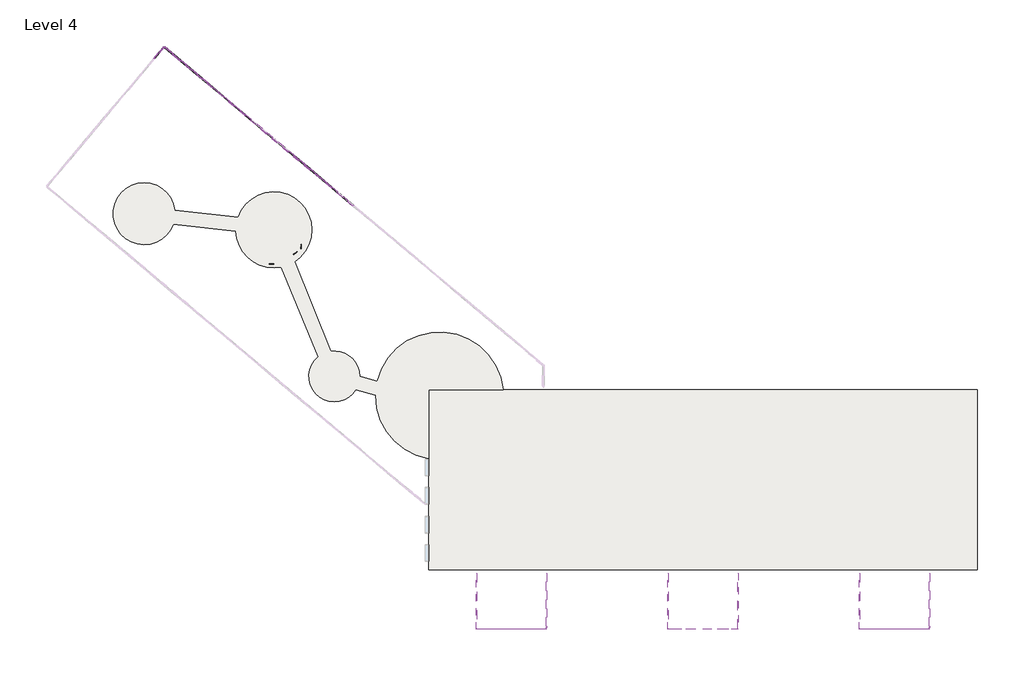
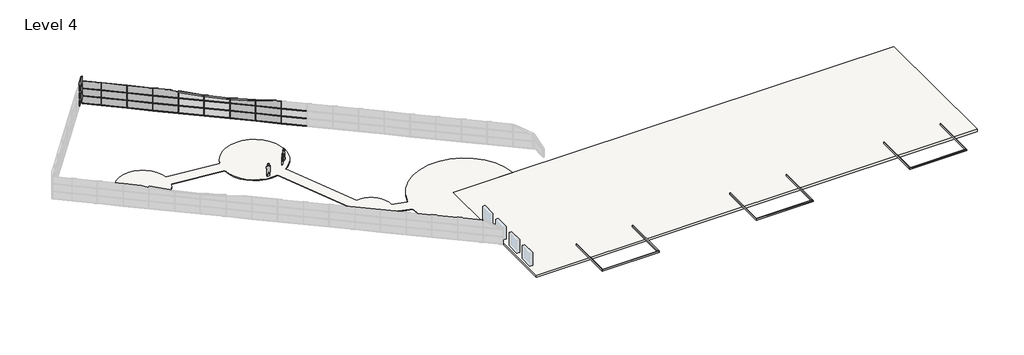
# One storey, part 4 of 4: 63 members, 21 plates, 12 proxies, 2 slabs.
"""IFC4 building model written with IfcOpenShell, lengths in millimetres."""

from ifc_helpers import new_model, si_unit, point, frame, frame_2d, origin, place, context, project, spatial, polyline, circle_curve, trimmed, segment, composite_curve, outline, extrude, faceted_brep, transform, mapped, element, save
from components import rpc_female_56938bd4, rpc_male_426f1bce, member_e6b937b8, member_4c6e9f0c, member_6fa90325, member_e501af4c, member_b87fc6c6, member_eaba9652, member_117cba67, member_8e78e238, member_387caf8a, member_71d430ac, member_3b3d754f, member_842ebd8a, system_panel_glazed_a2c5a472, system_panel_glazed_ccf48815, system_panel_glazed_c349e88e, system_panel_glazed_ea386904, system_panel_glazed_47c8b272, system_panel_glazed_6d8562a1

model = new_model("IFC4")

# Units and contexts
model_context = context("Model", 3, world=origin())
ifc_project = project(units=[si_unit("LENGTHUNIT", "METRE", prefix="MILLI")], contexts=[model_context])

# Site, building, storey
site = spatial("IfcSite", under=ifc_project)
building = spatial("IfcBuilding", under=site)
storey = spatial("IfcBuildingStorey", under=building, Name="Level 4", Elevation=9144.0)

# Proxies
placement = place(None, origin())
element("IfcBuildingElementProxy", 1, Name="Wall Sweeps", at=placement, inside=storey, context=model_context, shape_type="SweptSolid", body=[
    extrude(outline(polyline([(-12643.1386573, -9429.9629393), (-12551.0636573, -9429.9629393), (-12551.0636573, -15433.8879393), (-12643.1386573, -15525.9629393), (-12643.1386573, -9429.9629393)])), frame((0.0, 0.0, 11785.6), z_axis=(0.0, 0.0, 1.0), x_axis=(1.0, 0.0, 0.0)), (0.0, 0.0, 1.0), 203.2),
])
element("IfcBuildingElementProxy", 2, Name="Wall Sweeps", at=placement, inside=storey, context=model_context, shape_type="Brep", body=[
    faceted_brep([(-12643.1386573, -15525.9629393, 11988.8), (-12551.0636573, -15433.8879393, 11988.8), (-12551.0636573, -15433.8879393, 11785.6), (-12643.1386573, -15525.9629393, 11785.6), (-4975.5136573, -15525.9629393, 11988.8), (-4975.5136573, -15525.9629393, 11785.6), (-5067.5886573, -15433.8879393, 11785.6), (-5067.5886573, -15433.8879393, 11988.8), (-12290.7136573, -15525.9629393, 11988.8), (-12290.7136573, -15433.8879393, 11988.8), (-12290.7136573, -15433.8879393, 11785.6), (-12290.7136573, -15525.9629393, 11785.6)], [[[0, 1, 2, 3]], [[4, 5, 6, 7]], [[1, 0, 8, 4, 7, 9]], [[2, 1, 9, 7, 6, 10]], [[3, 2, 10, 6, 5, 11]], [[0, 3, 11, 5, 4, 8]]]),
])
element("IfcBuildingElementProxy", 3, Name="Wall Sweeps", at=placement, inside=storey, context=model_context, shape_type="Brep", body=[
    faceted_brep([(-4975.5136573, -15525.9629393, 11988.8), (-5067.5886573, -15433.8879393, 11988.8), (-5067.5886573, -15433.8879393, 11785.6), (-4975.5136573, -15525.9629393, 11785.6), (-4975.5136573, -9429.9629393, 11988.8), (-4975.5136573, -9429.9629393, 11785.6), (-5067.5886573, -9429.9629393, 11785.6), (-5067.5886573, -9429.9629393, 11988.8), (-4975.5136573, -15173.5379393, 11988.8), (-5067.5886573, -15173.5379393, 11988.8), (-5067.5886573, -15173.5379393, 11785.6), (-4975.5136573, -15173.5379393, 11785.6)], [[[0, 1, 2, 3]], [[4, 5, 6, 7]], [[1, 0, 8, 4, 7, 9]], [[2, 1, 9, 7, 6, 10]], [[3, 2, 10, 6, 5, 11]], [[0, 3, 11, 5, 4, 8]]]),
])
element("IfcBuildingElementProxy", 4, Name="Wall Sweeps", at=placement, inside=storey, context=model_context, shape_type="SweptSolid", body=[
    extrude(outline(polyline([(8083.2613427, -9429.9629393), (8175.3363427, -9429.9629393), (8175.3363427, -15433.8879393), (8083.2613427, -15525.9629393), (8083.2613427, -9429.9629393)])), frame((0.0, 0.0, 11785.6), z_axis=(0.0, 0.0, 1.0), x_axis=(1.0, 0.0, 0.0)), (0.0, 0.0, 1.0), 203.2),
])
element("IfcBuildingElementProxy", 5, Name="Wall Sweeps", at=placement, inside=storey, context=model_context, shape_type="SweptSolid", body=[
    extrude(outline(polyline([(8083.2613427, -15525.9629393), (8175.3363427, -15433.8879393), (15658.8113427, -15433.8879393), (15750.8863427, -15525.9629393), (8083.2613427, -15525.9629393)])), frame((0.0, 0.0, 11785.6), z_axis=(0.0, 0.0, 1.0), x_axis=(1.0, 0.0, 0.0)), (0.0, 0.0, 1.0), 203.2),
])
element("IfcBuildingElementProxy", 6, Name="Wall Sweeps", at=placement, inside=storey, context=model_context, shape_type="SweptSolid", body=[
    extrude(outline(polyline([(15750.8863427, -15525.9629393), (15658.8113427, -15433.8879393), (15658.8113427, -9429.9629393), (15750.8863427, -9429.9629393), (15750.8863427, -15525.9629393)])), frame((0.0, 0.0, 11785.6), z_axis=(0.0, 0.0, 1.0), x_axis=(1.0, 0.0, 0.0)), (0.0, 0.0, 1.0), 203.2),
])
element("IfcBuildingElementProxy", 7, Name="Wall Sweeps", at=placement, inside=storey, context=model_context, shape_type="SweptSolid", body=[
    extrude(outline(polyline([(28809.6613427, -9429.9629393), (28901.7363427, -9429.9629393), (28901.7363427, -15433.8879393), (28809.6613427, -15525.9629393), (28809.6613427, -9429.9629393)])), frame((0.0, 0.0, 11785.6), z_axis=(0.0, 0.0, 1.0), x_axis=(1.0, 0.0, 0.0)), (0.0, 0.0, 1.0), 203.2),
])
element("IfcBuildingElementProxy", 8, Name="Wall Sweeps", at=placement, inside=storey, context=model_context, shape_type="Brep", body=[
    faceted_brep([(28809.6613427, -15525.9629393, 11988.8), (28901.7363427, -15433.8879393, 11988.8), (28901.7363427, -15433.8879393, 11785.6), (28809.6613427, -15525.9629393, 11785.6), (36477.2863427, -15525.9629393, 11988.8), (36477.2863427, -15525.9629393, 11785.6), (36385.2113427, -15433.8879393, 11785.6), (36385.2113427, -15433.8879393, 11988.8), (29162.0863427, -15525.9629393, 11988.8), (29162.0863427, -15433.8879393, 11988.8), (29162.0863427, -15433.8879393, 11785.6), (29162.0863427, -15525.9629393, 11785.6)], [[[0, 1, 2, 3]], [[4, 5, 6, 7]], [[1, 0, 8, 4, 7, 9]], [[2, 1, 9, 7, 6, 10]], [[3, 2, 10, 6, 5, 11]], [[0, 3, 11, 5, 4, 8]]]),
])
element("IfcBuildingElementProxy", 9, Name="Wall Sweeps", at=placement, inside=storey, context=model_context, shape_type="Brep", body=[
    faceted_brep([(36477.2863427, -15525.9629393, 11988.8), (36385.2113427, -15433.8879393, 11988.8), (36385.2113427, -15433.8879393, 11785.6), (36477.2863427, -15525.9629393, 11785.6), (36477.2863427, -9429.9629393, 11988.8), (36477.2863427, -9429.9629393, 11785.6), (36385.2113427, -9429.9629393, 11785.6), (36385.2113427, -9429.9629393, 11988.8), (36477.2863427, -15173.5379393, 11988.8), (36385.2113427, -15173.5379393, 11988.8), (36385.2113427, -15173.5379393, 11785.6), (36477.2863427, -15173.5379393, 11785.6)], [[[0, 1, 2, 3]], [[4, 5, 6, 7]], [[1, 0, 8, 4, 7, 9]], [[2, 1, 9, 7, 6, 10]], [[3, 2, 10, 6, 5, 11]], [[0, 3, 11, 5, 4, 8]]]),
])
rpc_female_shape = rpc_female_56938bd4(model_context)
element("IfcBuildingElementProxy", 10, Name="RPC Female : Tina", ObjectType="RPC Female : Tina", at=placement, inside=storey, context=model_context, shape_type="MappedRepresentation", body=[
    mapped(rpc_female_shape, transform((-31588.0816242, 25938.0417071, 9144.0), x_axis=(0.10452846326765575, 0.9945218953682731, 0.0), y_axis=(-0.9945218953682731, 0.10452846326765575, 0.0), z_axis=(0.0, 0.0, 1.0))),
])
element("IfcBuildingElementProxy", 11, Name="RPC Female : YinYin", ObjectType="RPC Female : YinYin", at=placement, inside=storey, context=model_context, shape_type="MappedRepresentation", body=[
    mapped(rpc_female_shape, transform((-32217.4304496, 25197.6313242, 9144.0), x_axis=(0.7660444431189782, 0.642787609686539, 0.0), y_axis=(-0.642787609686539, 0.7660444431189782, 0.0), z_axis=(0.0, 0.0, 1.0))),
])
rpc_male_shape = rpc_male_426f1bce(model_context)
element("IfcBuildingElementProxy", 12, Name="RPC Male : LaRon", ObjectType="RPC Male : LaRon", at=placement, inside=storey, context=model_context, shape_type="MappedRepresentation", body=[
    mapped(rpc_male_shape, transform((-34788.2129573, 24037.7958644, 9144.0), x_axis=(1.0, 0.0, 0.0), y_axis=(0.0, 1.0, 0.0), z_axis=(0.0, 0.0, 1.0))),
])

# Members
member_shape = member_e6b937b8(model_context)
element("IfcMember", 13, ObjectType="Rectangular Mullion : 1.5\" x 2.5\" rectangular", at=placement, inside=storey, context=model_context, shape_type="MappedRepresentation", body=[
    mapped(member_shape, transform((-44606.1504378, 46018.2846161, 10400.7444177), x_axis=(0.76604444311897, -0.6427876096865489, 0.0), y_axis=(0.6427876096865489, 0.76604444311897, 0.0), z_axis=(0.0, 0.0, 1.0))),
])
element("IfcMember", 14, ObjectType="Rectangular Mullion : 1.5\" x 2.5\" rectangular", at=placement, inside=storey, context=model_context, shape_type="MappedRepresentation", body=[
    mapped(member_shape, transform((-42271.2469751, 44059.0679818, 10400.7444177), x_axis=(0.76604444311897, -0.6427876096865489, 0.0), y_axis=(0.6427876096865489, 0.76604444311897, 0.0), z_axis=(0.0, 0.0, 1.0))),
])
element("IfcMember", 15, ObjectType="Rectangular Mullion : 1.5\" x 2.5\" rectangular", at=placement, inside=storey, context=model_context, shape_type="MappedRepresentation", body=[
    mapped(member_shape, transform((-39936.3435125, 42099.8513475, 10400.7444177), x_axis=(0.76604444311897, -0.6427876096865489, 0.0), y_axis=(0.6427876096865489, 0.76604444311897, 0.0), z_axis=(0.0, 0.0, 1.0))),
])
element("IfcMember", 16, ObjectType="Rectangular Mullion : 1.5\" x 2.5\" rectangular", at=placement, inside=storey, context=model_context, shape_type="MappedRepresentation", body=[
    mapped(member_shape, transform((-32931.6331246, 36222.2014445, 10400.7444177), x_axis=(0.76604444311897, -0.6427876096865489, 0.0), y_axis=(0.6427876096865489, 0.76604444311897, 0.0), z_axis=(0.0, 0.0, 1.0))),
])
element("IfcMember", 17, ObjectType="Rectangular Mullion : 1.5\" x 2.5\" rectangular", at=placement, inside=storey, context=model_context, shape_type="MappedRepresentation", body=[
    mapped(member_shape, transform((-30596.729662, 34262.9848102, 10400.7444177), x_axis=(0.76604444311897, -0.6427876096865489, 0.0), y_axis=(0.6427876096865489, 0.76604444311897, 0.0), z_axis=(0.0, 0.0, 1.0))),
])
element("IfcMember", 18, ObjectType="Rectangular Mullion : 1.5\" x 2.5\" rectangular", at=placement, inside=storey, context=model_context, shape_type="MappedRepresentation", body=[
    mapped(member_shape, transform((-28261.8261994, 32303.7681758, 10400.7444177), x_axis=(0.76604444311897, -0.6427876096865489, 0.0), y_axis=(0.6427876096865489, 0.76604444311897, 0.0), z_axis=(0.0, 0.0, 1.0))),
])
element("IfcMember", 19, ObjectType="Rectangular Mullion : 1.5\" x 2.5\" rectangular", at=placement, inside=storey, context=model_context, shape_type="MappedRepresentation", body=[
    mapped(member_shape, transform((-44606.1504378, 46018.2846161, 11467.5444177), x_axis=(0.76604444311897, -0.6427876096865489, 0.0), y_axis=(0.6427876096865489, 0.76604444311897, 0.0), z_axis=(0.0, 0.0, 1.0))),
])
element("IfcMember", 20, ObjectType="Rectangular Mullion : 1.5\" x 2.5\" rectangular", at=placement, inside=storey, context=model_context, shape_type="MappedRepresentation", body=[
    mapped(member_shape, transform((-28261.8261994, 32303.7681758, 11467.5444177), x_axis=(0.76604444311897, -0.6427876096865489, 0.0), y_axis=(0.6427876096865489, 0.76604444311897, 0.0), z_axis=(0.0, 0.0, 1.0))),
])
element("IfcMember", 21, ObjectType="Rectangular Mullion : 1.5\" x 2.5\" rectangular", at=placement, inside=storey, context=model_context, shape_type="MappedRepresentation", body=[
    mapped(member_shape, transform((-37601.4400499, 40140.6347131, 10400.7444177), x_axis=(0.76604444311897, -0.6427876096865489, 0.0), y_axis=(0.6427876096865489, 0.76604444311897, 0.0), z_axis=(0.0, 0.0, 1.0))),
])
element("IfcMember", 22, ObjectType="Rectangular Mullion : 1.5\" x 2.5\" rectangular", at=placement, inside=storey, context=model_context, shape_type="MappedRepresentation", body=[
    mapped(member_shape, transform((-35266.5365873, 38181.4180788, 10400.7444177), x_axis=(0.76604444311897, -0.6427876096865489, 0.0), y_axis=(0.6427876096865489, 0.76604444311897, 0.0), z_axis=(0.0, 0.0, 1.0))),
])
element("IfcMember", 23, ObjectType="Rectangular Mullion : 1.5\" x 2.5\" rectangular", at=placement, inside=storey, context=model_context, shape_type="MappedRepresentation", body=[
    mapped(member_shape, transform((-32931.6331246, 36222.2014445, 11467.5444177), x_axis=(0.76604444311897, -0.6427876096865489, 0.0), y_axis=(0.6427876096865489, 0.76604444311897, 0.0), z_axis=(0.0, 0.0, 1.0))),
])
element("IfcMember", 24, ObjectType="Rectangular Mullion : 1.5\" x 2.5\" rectangular", at=placement, inside=storey, context=model_context, shape_type="MappedRepresentation", body=[
    mapped(member_shape, transform((-30596.729662, 34262.9848102, 11467.5444177), x_axis=(0.76604444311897, -0.6427876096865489, 0.0), y_axis=(0.6427876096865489, 0.76604444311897, 0.0), z_axis=(0.0, 0.0, 1.0))),
])
element("IfcMember", 25, ObjectType="Rectangular Mullion : 1.5\" x 2.5\" rectangular", at=placement, inside=storey, context=model_context, shape_type="MappedRepresentation", body=[
    mapped(member_shape, transform((-28261.8261994, 32303.7681758, 12534.3444177), x_axis=(0.76604444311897, -0.6427876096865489, 0.0), y_axis=(0.6427876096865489, 0.76604444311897, 0.0), z_axis=(0.0, 0.0, 1.0))),
])
element("IfcMember", 26, ObjectType="Rectangular Mullion : 1.5\" x 2.5\" rectangular", at=placement, inside=storey, context=model_context, shape_type="MappedRepresentation", body=[
    mapped(member_shape, transform((-42271.2469751, 44059.0679818, 11467.5444177), x_axis=(0.76604444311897, -0.6427876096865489, 0.0), y_axis=(0.6427876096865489, 0.76604444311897, 0.0), z_axis=(0.0, 0.0, 1.0))),
])
element("IfcMember", 27, ObjectType="Rectangular Mullion : 1.5\" x 2.5\" rectangular", at=placement, inside=storey, context=model_context, shape_type="MappedRepresentation", body=[
    mapped(member_shape, transform((-39936.3435125, 42099.8513475, 11467.5444177), x_axis=(0.76604444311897, -0.6427876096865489, 0.0), y_axis=(0.6427876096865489, 0.76604444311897, 0.0), z_axis=(0.0, 0.0, 1.0))),
])
element("IfcMember", 28, ObjectType="Rectangular Mullion : 1.5\" x 2.5\" rectangular", at=placement, inside=storey, context=model_context, shape_type="MappedRepresentation", body=[
    mapped(member_shape, transform((-37601.4400499, 40140.6347131, 11467.5444177), x_axis=(0.76604444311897, -0.6427876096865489, 0.0), y_axis=(0.6427876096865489, 0.76604444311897, 0.0), z_axis=(0.0, 0.0, 1.0))),
])
element("IfcMember", 29, ObjectType="Rectangular Mullion : 1.5\" x 2.5\" rectangular", at=placement, inside=storey, context=model_context, shape_type="MappedRepresentation", body=[
    mapped(member_shape, transform((-35266.5365873, 38181.4180788, 11467.5444177), x_axis=(0.76604444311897, -0.6427876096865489, 0.0), y_axis=(0.6427876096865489, 0.76604444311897, 0.0), z_axis=(0.0, 0.0, 1.0))),
])
element("IfcMember", 30, ObjectType="Rectangular Mullion : 1.5\" x 2.5\" rectangular", at=placement, inside=storey, context=model_context, shape_type="MappedRepresentation", body=[
    mapped(member_shape, transform((-44606.1504378, 46018.2846161, 12534.3444177), x_axis=(0.76604444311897, -0.6427876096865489, 0.0), y_axis=(0.6427876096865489, 0.76604444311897, 0.0), z_axis=(0.0, 0.0, 1.0))),
])
element("IfcMember", 31, ObjectType="Rectangular Mullion : 1.5\" x 2.5\" rectangular", at=placement, inside=storey, context=model_context, shape_type="MappedRepresentation", body=[
    mapped(member_shape, transform((-42271.2469751, 44059.0679818, 12534.3444177), x_axis=(0.76604444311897, -0.6427876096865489, 0.0), y_axis=(0.6427876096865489, 0.76604444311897, 0.0), z_axis=(0.0, 0.0, 1.0))),
])
element("IfcMember", 32, ObjectType="Rectangular Mullion : 1.5\" x 2.5\" rectangular", at=placement, inside=storey, context=model_context, shape_type="MappedRepresentation", body=[
    mapped(member_shape, transform((-39936.3435125, 42099.8513475, 12534.3444177), x_axis=(0.76604444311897, -0.6427876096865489, 0.0), y_axis=(0.6427876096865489, 0.76604444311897, 0.0), z_axis=(0.0, 0.0, 1.0))),
])
element("IfcMember", 33, ObjectType="Rectangular Mullion : 1.5\" x 2.5\" rectangular", at=placement, inside=storey, context=model_context, shape_type="MappedRepresentation", body=[
    mapped(member_shape, transform((-47467.9053784, 46277.8248681, 11021.2974171), x_axis=(0.6427876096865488, 0.7660444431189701, 0.0), y_axis=(-0.7660444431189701, 0.6427876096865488, 0.0), z_axis=(0.0, 0.0, 1.0))),
])
element("IfcMember", 34, ObjectType="Rectangular Mullion : 1.5\" x 2.5\" rectangular", at=placement, inside=storey, context=model_context, shape_type="MappedRepresentation", body=[
    mapped(member_shape, transform((-47467.9053784, 46277.8248681, 12088.0974171), x_axis=(0.6427876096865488, 0.7660444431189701, 0.0), y_axis=(-0.7660444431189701, 0.6427876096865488, 0.0), z_axis=(0.0, 0.0, 1.0))),
])
element("IfcMember", 35, ObjectType="Rectangular Mullion : 1.5\" x 2.5\" rectangular", at=placement, inside=storey, context=model_context, shape_type="MappedRepresentation", body=[
    mapped(member_shape, transform((-47467.9053784, 46277.8248681, 13154.8974171), x_axis=(0.6427876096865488, 0.7660444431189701, 0.0), y_axis=(-0.7660444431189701, 0.6427876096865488, 0.0), z_axis=(0.0, 0.0, 1.0))),
])
member_2_shape = member_4c6e9f0c(model_context)
element("IfcMember", 36, ObjectType="Rectangular Mullion : 1.5\" x 2.5\" rectangular", at=placement, inside=storey, context=model_context, shape_type="MappedRepresentation", body=[
    mapped(member_2_shape, transform((-35266.5365873, 38181.4180788, 12182.7649454), x_axis=(0.76604444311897, -0.6427876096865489, 0.0), y_axis=(0.6427876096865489, 0.76604444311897, 0.0), z_axis=(0.0, 0.0, 1.0))),
])
member_3_shape = member_6fa90325(model_context)
element("IfcMember", 37, ObjectType="Rectangular Mullion : 1.5\" x 2.5\" rectangular", at=placement, inside=storey, context=model_context, shape_type="MappedRepresentation", body=[
    mapped(member_3_shape, transform((-32931.6331246, 36222.2014445, 12145.3017356), x_axis=(0.76604444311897, -0.6427876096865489, 0.0), y_axis=(0.6427876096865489, 0.76604444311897, 0.0), z_axis=(0.0, 0.0, 1.0))),
])
member_4_shape = member_e501af4c(model_context)
element("IfcMember", 38, ObjectType="Rectangular Mullion : 1.5\" x 2.5\" rectangular", at=placement, inside=storey, context=model_context, shape_type="MappedRepresentation", body=[
    mapped(member_4_shape, transform((-30596.729662, 34262.9848102, 12327.8399655), x_axis=(0.76604444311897, -0.6427876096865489, 0.0), y_axis=(0.6427876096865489, 0.76604444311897, 0.0), z_axis=(0.0, 0.0, 1.0))),
])
member_5_shape = member_b87fc6c6(model_context)
element("IfcMember", 39, ObjectType="Rectangular Mullion : 1.5\" x 2.5\" rectangular", at=placement, inside=storey, context=model_context, shape_type="MappedRepresentation", body=[
    mapped(member_5_shape, transform((-37601.4400499, 40140.6347131, 12440.8181525), x_axis=(0.76604444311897, -0.6427876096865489, 0.0), y_axis=(0.6427876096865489, 0.76604444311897, 0.0), z_axis=(0.0, 0.0, 1.0))),
])
member_6_shape = member_eaba9652(model_context)
element("IfcMember", 40, ObjectType="Rectangular Mullion : 2.5\" x 5\" rectangular", at=placement, inside=storey, context=model_context, shape_type="MappedRepresentation", body=[
    mapped(member_6_shape, transform((-44606.1504378, 46018.2846161, 9365.6944177), x_axis=(0.0, 0.0, 1.0), y_axis=(0.6427876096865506, 0.7660444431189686, 0.0), z_axis=(-0.7660444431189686, 0.6427876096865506, 0.0))),
])
element("IfcMember", 41, ObjectType="Rectangular Mullion : 2.5\" x 5\" rectangular", at=placement, inside=storey, context=model_context, shape_type="MappedRepresentation", body=[
    mapped(member_6_shape, transform((-42271.2469751, 44059.0679818, 9365.6944177), x_axis=(0.0, 0.0, 1.0), y_axis=(0.6427876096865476, 0.7660444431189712, 0.0), z_axis=(-0.7660444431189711, 0.6427876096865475, 0.0))),
])
element("IfcMember", 42, ObjectType="Rectangular Mullion : 2.5\" x 5\" rectangular", at=placement, inside=storey, context=model_context, shape_type="MappedRepresentation", body=[
    mapped(member_6_shape, transform((-39936.3435125, 42099.8513475, 9365.6944177), x_axis=(0.0, 0.0, 1.0), y_axis=(0.6427876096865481, 0.7660444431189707, 0.0), z_axis=(-0.7660444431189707, 0.6427876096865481, 0.0))),
])
element("IfcMember", 43, ObjectType="Rectangular Mullion : 2.5\" x 5\" rectangular", at=placement, inside=storey, context=model_context, shape_type="MappedRepresentation", body=[
    mapped(member_6_shape, transform((-37601.4400499, 40140.6347131, 9365.6944177), x_axis=(0.0, 0.0, 1.0), y_axis=(0.6427876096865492, 0.7660444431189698, 0.0), z_axis=(-0.7660444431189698, 0.6427876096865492, 0.0))),
])
element("IfcMember", 44, ObjectType="Rectangular Mullion : 2.5\" x 5\" rectangular", at=placement, inside=storey, context=model_context, shape_type="MappedRepresentation", body=[
    mapped(member_6_shape, transform((-35266.5365873, 38181.4180788, 9365.6944177), x_axis=(0.0, 0.0, 1.0), y_axis=(0.6427876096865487, 0.7660444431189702, 0.0), z_axis=(-0.7660444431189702, 0.6427876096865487, 0.0))),
])
element("IfcMember", 45, ObjectType="Rectangular Mullion : 2.5\" x 5\" rectangular", at=placement, inside=storey, context=model_context, shape_type="MappedRepresentation", body=[
    mapped(member_6_shape, transform((-32931.6331246, 36222.2014445, 9365.6944177), x_axis=(0.0, 0.0, 1.0), y_axis=(0.6427876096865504, 0.7660444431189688, 0.0), z_axis=(-0.7660444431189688, 0.6427876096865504, 0.0))),
])
element("IfcMember", 46, ObjectType="Rectangular Mullion : 2.5\" x 5\" rectangular", at=placement, inside=storey, context=model_context, shape_type="MappedRepresentation", body=[
    mapped(member_6_shape, transform((-30596.729662, 34262.9848102, 9365.6944177), x_axis=(0.0, 0.0, 1.0), y_axis=(0.6427876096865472, 0.7660444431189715, 0.0), z_axis=(-0.7660444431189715, 0.6427876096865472, 0.0))),
])
element("IfcMember", 47, ObjectType="Rectangular Mullion : 2.5\" x 5\" rectangular", at=placement, inside=storey, context=model_context, shape_type="MappedRepresentation", body=[
    mapped(member_6_shape, transform((-28261.8261994, 32303.7681758, 9365.6944177), x_axis=(0.0, 0.0, 1.0), y_axis=(0.64278760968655, 0.766044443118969, 0.0), z_axis=(-0.766044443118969, 0.64278760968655, 0.0))),
])
element("IfcMember", 48, ObjectType="Rectangular Mullion : 2.5\" x 5\" rectangular", at=placement, inside=storey, context=model_context, shape_type="MappedRepresentation", body=[
    mapped(member_6_shape, transform((-44606.1504378, 46018.2846161, 10432.4944177), x_axis=(0.0, 0.0, 1.0), y_axis=(0.6427876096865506, 0.7660444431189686, 0.0), z_axis=(-0.7660444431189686, 0.6427876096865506, 0.0))),
])
element("IfcMember", 49, ObjectType="Rectangular Mullion : 2.5\" x 5\" rectangular", at=placement, inside=storey, context=model_context, shape_type="MappedRepresentation", body=[
    mapped(member_6_shape, transform((-42271.2469751, 44059.0679818, 10432.4944177), x_axis=(0.0, 0.0, 1.0), y_axis=(0.6427876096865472, 0.7660444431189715, 0.0), z_axis=(-0.7660444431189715, 0.6427876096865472, 0.0))),
])
element("IfcMember", 50, ObjectType="Rectangular Mullion : 2.5\" x 5\" rectangular", at=placement, inside=storey, context=model_context, shape_type="MappedRepresentation", body=[
    mapped(member_6_shape, transform((-39936.3435125, 42099.8513475, 10432.4944177), x_axis=(0.0, 0.0, 1.0), y_axis=(0.6427876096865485, 0.7660444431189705, 0.0), z_axis=(-0.7660444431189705, 0.6427876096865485, 0.0))),
])
element("IfcMember", 51, ObjectType="Rectangular Mullion : 2.5\" x 5\" rectangular", at=placement, inside=storey, context=model_context, shape_type="MappedRepresentation", body=[
    mapped(member_6_shape, transform((-35266.5365873, 38181.4180788, 10432.4944177), x_axis=(0.0, 0.0, 1.0), y_axis=(0.6427876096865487, 0.7660444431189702, 0.0), z_axis=(-0.7660444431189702, 0.6427876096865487, 0.0))),
])
element("IfcMember", 52, ObjectType="Rectangular Mullion : 2.5\" x 5\" rectangular", at=placement, inside=storey, context=model_context, shape_type="MappedRepresentation", body=[
    mapped(member_6_shape, transform((-32931.6331246, 36222.2014445, 10432.4944177), x_axis=(0.0, 0.0, 1.0), y_axis=(0.6427876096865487, 0.7660444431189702, 0.0), z_axis=(-0.7660444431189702, 0.6427876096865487, 0.0))),
])
element("IfcMember", 53, ObjectType="Rectangular Mullion : 2.5\" x 5\" rectangular", at=placement, inside=storey, context=model_context, shape_type="MappedRepresentation", body=[
    mapped(member_6_shape, transform((-30596.729662, 34262.9848102, 10432.4944177), x_axis=(0.0, 0.0, 1.0), y_axis=(0.642787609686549, 0.76604444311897, 0.0), z_axis=(-0.7660444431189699, 0.6427876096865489, 0.0))),
])
element("IfcMember", 54, ObjectType="Rectangular Mullion : 2.5\" x 5\" rectangular", at=placement, inside=storey, context=model_context, shape_type="MappedRepresentation", body=[
    mapped(member_6_shape, transform((-28261.8261994, 32303.7681758, 10432.4944177), x_axis=(0.0, 0.0, 1.0), y_axis=(0.6427876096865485, 0.7660444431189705, 0.0), z_axis=(-0.7660444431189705, 0.6427876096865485, 0.0))),
])
element("IfcMember", 55, ObjectType="Rectangular Mullion : 2.5\" x 5\" rectangular", at=placement, inside=storey, context=model_context, shape_type="MappedRepresentation", body=[
    mapped(member_6_shape, transform((-44606.1504378, 46018.2846161, 11499.2944177), x_axis=(0.0, 0.0, 1.0), y_axis=(0.6427876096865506, 0.7660444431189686, 0.0), z_axis=(-0.7660444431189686, 0.6427876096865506, 0.0))),
])
element("IfcMember", 56, ObjectType="Rectangular Mullion : 2.5\" x 5\" rectangular", at=placement, inside=storey, context=model_context, shape_type="MappedRepresentation", body=[
    mapped(member_6_shape, transform((-30596.729662, 34262.9848102, 11499.2944177), x_axis=(0.0, 0.0, 1.0), y_axis=(0.6427876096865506, 0.7660444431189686, 0.0), z_axis=(-0.7660444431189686, 0.6427876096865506, 0.0))),
])
element("IfcMember", 57, ObjectType="Rectangular Mullion : 2.5\" x 5\" rectangular", at=placement, inside=storey, context=model_context, shape_type="MappedRepresentation", body=[
    mapped(member_6_shape, transform((-28261.8261994, 32303.7681758, 11499.2944177), x_axis=(0.0, 0.0, 1.0), y_axis=(0.6427876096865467, 0.7660444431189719, 0.0), z_axis=(-0.7660444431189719, 0.6427876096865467, 0.0))),
])
element("IfcMember", 58, ObjectType="Rectangular Mullion : 2.5\" x 5\" rectangular", at=placement, inside=storey, context=model_context, shape_type="MappedRepresentation", body=[
    mapped(member_6_shape, transform((-37601.4400499, 40140.6347131, 10432.4944177), x_axis=(0.0, 0.0, 1.0), y_axis=(0.6427876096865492, 0.7660444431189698, 0.0), z_axis=(-0.7660444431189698, 0.6427876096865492, 0.0))),
])
element("IfcMember", 59, ObjectType="Rectangular Mullion : 2.5\" x 5\" rectangular", at=placement, inside=storey, context=model_context, shape_type="MappedRepresentation", body=[
    mapped(member_6_shape, transform((-35266.5365873, 38181.4180788, 11499.2944177), x_axis=(0.0, 0.0, 1.0), y_axis=(0.6427876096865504, 0.7660444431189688, 0.0), z_axis=(-0.7660444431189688, 0.6427876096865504, 0.0))),
])
element("IfcMember", 60, ObjectType="Rectangular Mullion : 2.5\" x 5\" rectangular", at=placement, inside=storey, context=model_context, shape_type="MappedRepresentation", body=[
    mapped(member_6_shape, transform((-32931.6331246, 36222.2014445, 11499.2944177), x_axis=(0.0, 0.0, 1.0), y_axis=(0.6427876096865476, 0.7660444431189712, 0.0), z_axis=(-0.7660444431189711, 0.6427876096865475, 0.0))),
])
element("IfcMember", 61, ObjectType="Rectangular Mullion : 2.5\" x 5\" rectangular", at=placement, inside=storey, context=model_context, shape_type="MappedRepresentation", body=[
    mapped(member_6_shape, transform((-42271.2469751, 44059.0679818, 11499.2944177), x_axis=(0.0, 0.0, 1.0), y_axis=(0.6427876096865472, 0.7660444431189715, 0.0), z_axis=(-0.7660444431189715, 0.6427876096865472, 0.0))),
])
element("IfcMember", 62, ObjectType="Rectangular Mullion : 2.5\" x 5\" rectangular", at=placement, inside=storey, context=model_context, shape_type="MappedRepresentation", body=[
    mapped(member_6_shape, transform((-39936.3435125, 42099.8513475, 11499.2944177), x_axis=(0.0, 0.0, 1.0), y_axis=(0.6427876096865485, 0.7660444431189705, 0.0), z_axis=(-0.7660444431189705, 0.6427876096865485, 0.0))),
])
element("IfcMember", 63, ObjectType="Rectangular Mullion : 2.5\" x 5\" rectangular", at=placement, inside=storey, context=model_context, shape_type="MappedRepresentation", body=[
    mapped(member_6_shape, transform((-37601.4400499, 40140.6347131, 11499.2944177), x_axis=(0.0, 0.0, 1.0), y_axis=(0.642787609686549, 0.76604444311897, 0.0), z_axis=(-0.7660444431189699, 0.6427876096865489, 0.0))),
])
member_7_shape = member_117cba67(model_context)
element("IfcMember", 64, ObjectType="Rectangular Mullion : 2.5\" x 5\" rectangular", at=placement, inside=storey, context=model_context, shape_type="MappedRepresentation", body=[
    mapped(member_7_shape, transform((-47467.9053784, 46277.8248681, 9986.2474171), x_axis=(0.0, 0.0, 1.0), y_axis=(-0.7660444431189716, 0.6427876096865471, 0.0), z_axis=(-0.6427876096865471, -0.7660444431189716, 0.0))),
])
element("IfcMember", 65, ObjectType="Rectangular Mullion : 2.5\" x 5\" rectangular", at=placement, inside=storey, context=model_context, shape_type="MappedRepresentation", body=[
    mapped(member_7_shape, transform((-47467.9053784, 46277.8248681, 11053.0474171), x_axis=(0.0, 0.0, 1.0), y_axis=(-0.7660444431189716, 0.6427876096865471, 0.0), z_axis=(-0.6427876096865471, -0.7660444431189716, 0.0))),
])
element("IfcMember", 66, ObjectType="Rectangular Mullion : 2.5\" x 5\" rectangular", at=placement, inside=storey, context=model_context, shape_type="MappedRepresentation", body=[
    mapped(member_7_shape, transform((-47467.9053784, 46277.8248681, 12119.8474171), x_axis=(0.0, 0.0, 1.0), y_axis=(-0.7660444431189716, 0.6427876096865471, 0.0), z_axis=(-0.6427876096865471, -0.7660444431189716, 0.0))),
])
member_8_shape = member_8e78e238(model_context)
element("IfcMember", 67, ObjectType="Rectangular Mullion : 2.5\" x 5\" rectangular", at=placement, inside=storey, context=model_context, shape_type="MappedRepresentation", body=[
    mapped(member_8_shape, transform((-46340.3300662, 47473.4341027, 9365.6944177), x_axis=(0.0, 0.0, 1.0), y_axis=(0.6427876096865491, 0.7660444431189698, 0.0), z_axis=(-0.7660444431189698, 0.6427876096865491, 0.0))),
])
element("IfcMember", 68, ObjectType="Rectangular Mullion : 2.5\" x 5\" rectangular", at=placement, inside=storey, context=model_context, shape_type="MappedRepresentation", body=[
    mapped(member_8_shape, transform((-46340.3300662, 47473.4341027, 10432.4944177), x_axis=(0.0, 0.0, 1.0), y_axis=(0.6427876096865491, 0.7660444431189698, 0.0), z_axis=(-0.7660444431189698, 0.6427876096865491, 0.0))),
])
element("IfcMember", 69, ObjectType="Rectangular Mullion : 2.5\" x 5\" rectangular", at=placement, inside=storey, context=model_context, shape_type="MappedRepresentation", body=[
    mapped(member_8_shape, transform((-46340.3300662, 47473.4341027, 11499.2944177), x_axis=(0.0, 0.0, 1.0), y_axis=(0.6427876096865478, 0.766044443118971, 0.0), z_axis=(-0.766044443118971, 0.6427876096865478, 0.0))),
])
member_9_shape = member_387caf8a(model_context)
element("IfcMember", 70, ObjectType="V Corner Mullion : 5\" V Corner", at=placement, inside=storey, context=model_context, shape_type="MappedRepresentation", body=[
    mapped(member_9_shape, transform((-46413.2957994, 47534.6596226, 11053.0474171), x_axis=(0.6427876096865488, 0.7660444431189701, 0.0), y_axis=(-0.7660444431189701, 0.6427876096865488, 0.0), z_axis=(0.0, 0.0, 1.0))),
])
element("IfcMember", 71, ObjectType="V Corner Mullion : 5\" V Corner", at=placement, inside=storey, context=model_context, shape_type="MappedRepresentation", body=[
    mapped(member_9_shape, transform((-46413.2957994, 47534.6596226, 12119.8474171), x_axis=(0.6427876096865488, 0.7660444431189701, 0.0), y_axis=(-0.7660444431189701, 0.6427876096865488, 0.0), z_axis=(0.0, 0.0, 1.0))),
])
element("IfcMember", 72, ObjectType="V Corner Mullion : 5\" V Corner", at=placement, inside=storey, context=model_context, shape_type="MappedRepresentation", body=[
    mapped(member_9_shape, transform((-46413.2957994, 47534.6596226, 13186.6474171), x_axis=(0.6427876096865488, 0.7660444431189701, 0.0), y_axis=(-0.7660444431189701, 0.6427876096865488, 0.0), z_axis=(0.0, 0.0, 1.0))),
])
member_10_shape = member_71d430ac(model_context)
element("IfcMember", 73, ObjectType="V Corner Mullion : 5\" V Corner", at=placement, inside=storey, context=model_context, shape_type="MappedRepresentation", body=[
    mapped(member_10_shape, transform((-35266.5365873, 38181.4180788, 12182.7649454), x_axis=(0.009414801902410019, -0.007899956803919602, 0.9999244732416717), y_axis=(0.6427876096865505, 0.7660444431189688, 0.0), z_axis=(-0.7659865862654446, 0.6427390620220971, 0.012290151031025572))),
])
member_11_shape = member_3b3d754f(model_context)
element("IfcMember", 74, ObjectType="V Corner Mullion : 5\" V Corner", at=placement, inside=storey, context=model_context, shape_type="MappedRepresentation", body=[
    mapped(member_11_shape, transform((-32931.6331246, 36222.2014445, 12145.3017356), x_axis=(-0.045794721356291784, 0.038426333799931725, 0.9982115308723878), y_axis=(0.6427876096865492, 0.7660444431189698, 0.0), z_axis=(-0.7646743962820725, 0.6416380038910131, -0.0597807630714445))),
])
member_12_shape = member_842ebd8a(model_context)
element("IfcMember", 75, ObjectType="V Corner Mullion : 5\" V Corner", at=placement, inside=storey, context=model_context, shape_type="MappedRepresentation", body=[
    mapped(member_12_shape, transform((-37601.4400499, 40140.6347131, 12440.8181525), x_axis=(0.06462452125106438, -0.0542264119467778, 0.9964352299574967), y_axis=(0.6427876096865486, 0.7660444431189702, 0.0), z_axis=(-0.7633136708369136, 0.6404962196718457, 0.08436132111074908))),
])

# Plates
system_panel_glazed_shape = system_panel_glazed_a2c5a472(model_context)
element("IfcPlate", 76, ObjectType="System Panel : Glazed", at=placement, inside=storey, context=model_context, shape_type="MappedRepresentation", body=[
    mapped(system_panel_glazed_shape, transform((-43438.6987064, 45038.6762989, 9397.4444177), x_axis=(0.76604444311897, -0.6427876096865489, 0.0), y_axis=(0.6427876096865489, 0.76604444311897, 0.0), z_axis=(0.0, 0.0, 1.0))),
])
element("IfcPlate", 77, ObjectType="System Panel : Glazed", at=placement, inside=storey, context=model_context, shape_type="MappedRepresentation", body=[
    mapped(system_panel_glazed_shape, transform((-41103.7952438, 43079.4596646, 9397.4444177), x_axis=(0.76604444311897, -0.6427876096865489, 0.0), y_axis=(0.6427876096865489, 0.76604444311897, 0.0), z_axis=(0.0, 0.0, 1.0))),
])
element("IfcPlate", 78, ObjectType="System Panel : Glazed", at=placement, inside=storey, context=model_context, shape_type="MappedRepresentation", body=[
    mapped(system_panel_glazed_shape, transform((-38768.8917812, 41120.2430303, 9397.4444177), x_axis=(0.76604444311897, -0.6427876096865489, 0.0), y_axis=(0.6427876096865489, 0.76604444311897, 0.0), z_axis=(0.0, 0.0, 1.0))),
])
element("IfcPlate", 79, ObjectType="System Panel : Glazed", at=placement, inside=storey, context=model_context, shape_type="MappedRepresentation", body=[
    mapped(system_panel_glazed_shape, transform((-31764.1813933, 35242.5931273, 9397.4444177), x_axis=(0.76604444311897, -0.6427876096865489, 0.0), y_axis=(0.6427876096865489, 0.76604444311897, 0.0), z_axis=(0.0, 0.0, 1.0))),
])
element("IfcPlate", 80, ObjectType="System Panel : Glazed", at=placement, inside=storey, context=model_context, shape_type="MappedRepresentation", body=[
    mapped(system_panel_glazed_shape, transform((-29429.2779307, 33283.376493, 9397.4444177), x_axis=(0.76604444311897, -0.6427876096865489, 0.0), y_axis=(0.6427876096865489, 0.76604444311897, 0.0), z_axis=(0.0, 0.0, 1.0))),
])
element("IfcPlate", 81, ObjectType="System Panel : Glazed", at=placement, inside=storey, context=model_context, shape_type="MappedRepresentation", body=[
    mapped(system_panel_glazed_shape, transform((-43438.6987064, 45038.6762989, 10464.2444177), x_axis=(0.76604444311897, -0.6427876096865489, 0.0), y_axis=(0.6427876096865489, 0.76604444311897, 0.0), z_axis=(0.0, 0.0, 1.0))),
])
element("IfcPlate", 82, ObjectType="System Panel : Glazed", at=placement, inside=storey, context=model_context, shape_type="MappedRepresentation", body=[
    mapped(system_panel_glazed_shape, transform((-41103.7952438, 43079.4596646, 10464.2444177), x_axis=(0.76604444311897, -0.6427876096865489, 0.0), y_axis=(0.6427876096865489, 0.76604444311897, 0.0), z_axis=(0.0, 0.0, 1.0))),
])
element("IfcPlate", 83, ObjectType="System Panel : Glazed", at=placement, inside=storey, context=model_context, shape_type="MappedRepresentation", body=[
    mapped(system_panel_glazed_shape, transform((-38768.8917812, 41120.2430303, 10464.2444177), x_axis=(0.76604444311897, -0.6427876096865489, 0.0), y_axis=(0.6427876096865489, 0.76604444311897, 0.0), z_axis=(0.0, 0.0, 1.0))),
])
element("IfcPlate", 84, ObjectType="System Panel : Glazed", at=placement, inside=storey, context=model_context, shape_type="MappedRepresentation", body=[
    mapped(system_panel_glazed_shape, transform((-31764.1813933, 35242.5931273, 10464.2444177), x_axis=(0.76604444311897, -0.6427876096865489, 0.0), y_axis=(0.6427876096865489, 0.76604444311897, 0.0), z_axis=(0.0, 0.0, 1.0))),
])
element("IfcPlate", 85, ObjectType="System Panel : Glazed", at=placement, inside=storey, context=model_context, shape_type="MappedRepresentation", body=[
    mapped(system_panel_glazed_shape, transform((-29429.2779307, 33283.376493, 10464.2444177), x_axis=(0.76604444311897, -0.6427876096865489, 0.0), y_axis=(0.6427876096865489, 0.76604444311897, 0.0), z_axis=(0.0, 0.0, 1.0))),
])
element("IfcPlate", 86, ObjectType="System Panel : Glazed", at=placement, inside=storey, context=model_context, shape_type="MappedRepresentation", body=[
    mapped(system_panel_glazed_shape, transform((-43438.6987064, 45038.6762989, 11531.0444177), x_axis=(0.76604444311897, -0.6427876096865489, 0.0), y_axis=(0.6427876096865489, 0.76604444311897, 0.0), z_axis=(0.0, 0.0, 1.0))),
])
element("IfcPlate", 87, ObjectType="System Panel : Glazed", at=placement, inside=storey, context=model_context, shape_type="MappedRepresentation", body=[
    mapped(system_panel_glazed_shape, transform((-41103.7952438, 43079.4596646, 11531.0444177), x_axis=(0.76604444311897, -0.6427876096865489, 0.0), y_axis=(0.6427876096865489, 0.76604444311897, 0.0), z_axis=(0.0, 0.0, 1.0))),
])
system_panel_glazed_2_shape = system_panel_glazed_ccf48815(model_context)
element("IfcPlate", 88, ObjectType="System Panel : Glazed", at=placement, inside=storey, context=model_context, shape_type="MappedRepresentation", body=[
    mapped(system_panel_glazed_2_shape, transform((-45480.5368253, 46751.9819114, 9397.4444177), x_axis=(0.76604444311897, -0.6427876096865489, 0.0), y_axis=(0.6427876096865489, 0.76604444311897, 0.0), z_axis=(0.0, 0.0, 1.0))),
])
element("IfcPlate", 89, ObjectType="System Panel : Glazed", at=placement, inside=storey, context=model_context, shape_type="MappedRepresentation", body=[
    mapped(system_panel_glazed_2_shape, transform((-45480.5368253, 46751.9819114, 10464.2444177), x_axis=(0.76604444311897, -0.6427876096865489, 0.0), y_axis=(0.6427876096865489, 0.76604444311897, 0.0), z_axis=(0.0, 0.0, 1.0))),
])
element("IfcPlate", 90, ObjectType="System Panel : Glazed", at=placement, inside=storey, context=model_context, shape_type="MappedRepresentation", body=[
    mapped(system_panel_glazed_2_shape, transform((-45480.5368253, 46751.9819114, 11531.0444177), x_axis=(0.76604444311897, -0.6427876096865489, 0.0), y_axis=(0.6427876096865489, 0.76604444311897, 0.0), z_axis=(0.0, 0.0, 1.0))),
])
system_panel_glazed_3_shape = system_panel_glazed_c349e88e(model_context)
element("IfcPlate", 91, ObjectType="System Panel : Glazed", at=placement, inside=storey, context=model_context, shape_type="MappedRepresentation", body=[
    mapped(system_panel_glazed_3_shape, transform((-46965.0907968, 46877.055952, 10017.9974171), x_axis=(0.6427876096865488, 0.7660444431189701, 0.0), y_axis=(-0.7660444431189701, 0.6427876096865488, 0.0), z_axis=(0.0, 0.0, 1.0))),
])
element("IfcPlate", 92, ObjectType="System Panel : Glazed", at=placement, inside=storey, context=model_context, shape_type="MappedRepresentation", body=[
    mapped(system_panel_glazed_3_shape, transform((-46965.0907968, 46877.055952, 11084.7974171), x_axis=(0.6427876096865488, 0.7660444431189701, 0.0), y_axis=(-0.7660444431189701, 0.6427876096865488, 0.0), z_axis=(0.0, 0.0, 1.0))),
])
element("IfcPlate", 93, ObjectType="System Panel : Glazed", at=placement, inside=storey, context=model_context, shape_type="MappedRepresentation", body=[
    mapped(system_panel_glazed_3_shape, transform((-46965.0907968, 46877.055952, 12151.5974171), x_axis=(0.6427876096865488, 0.7660444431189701, 0.0), y_axis=(-0.7660444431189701, 0.6427876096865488, 0.0), z_axis=(0.0, 0.0, 1.0))),
])
system_panel_glazed_4_shape = system_panel_glazed_ea386904(model_context)
element("IfcPlate", 94, ObjectType="System Panel : Glazed", at=placement, inside=storey, context=model_context, shape_type="MappedRepresentation", body=[
    mapped(system_panel_glazed_4_shape, transform((-31764.1813933, 35242.5931273, 11531.0444177), x_axis=(0.76604444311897, -0.6427876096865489, 0.0), y_axis=(0.6427876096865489, 0.76604444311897, 0.0), z_axis=(0.0, 0.0, 1.0))),
])
system_panel_glazed_5_shape = system_panel_glazed_47c8b272(model_context)
element("IfcPlate", 95, ObjectType="System Panel : Glazed", at=placement, inside=storey, context=model_context, shape_type="MappedRepresentation", body=[
    mapped(system_panel_glazed_5_shape, transform((-29429.2779307, 33283.376493, 11531.0444177), x_axis=(0.76604444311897, -0.6427876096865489, 0.0), y_axis=(0.6427876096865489, 0.76604444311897, 0.0), z_axis=(0.0, 0.0, 1.0))),
])
system_panel_glazed_6_shape = system_panel_glazed_6d8562a1(model_context)
element("IfcPlate", 96, ObjectType="System Panel : Glazed", at=placement, inside=storey, context=model_context, shape_type="MappedRepresentation", body=[
    mapped(system_panel_glazed_6_shape, transform((-38768.8917812, 41120.2430303, 11531.0444177), x_axis=(0.76604444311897, -0.6427876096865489, 0.0), y_axis=(0.6427876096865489, 0.76604444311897, 0.0), z_axis=(0.0, 0.0, 1.0))),
])

# Slabs
element("IfcSlab", 97, ObjectType="Generic - 12\"", at=placement, inside=storey, context=model_context, shape_type="Brep", body=[
    faceted_brep([(41623.9613427, 10394.7370607, 8839.2), (41623.9613427, -9090.2379393, 8839.2), (-17789.8136573, -9090.2379393, 8839.2), (-17789.8136573, 10394.7370607, 8839.2), (41623.9613427, 10394.7370607, 9144.0), (-9723.7261573, 10394.7370607, 9144.0), (-17789.8136573, 10394.7370607, 9144.0), (-17789.8136573, 2943.4272892, 9144.0), (-17789.8136573, -9090.2379393, 9144.0), (41623.9613427, -9090.2379393, 9144.0), (-17789.8136573, 10394.7370607, 9039.225)], [[[0, 1, 2, 3]], [[4, 5, 6, 7, 8, 9]], [[1, 0, 4, 9]], [[2, 1, 9, 8]], [[3, 2, 8, 7, 6, 10]], [[0, 3, 10, 6, 5, 4]]]),
])
element("IfcSlab", 98, ObjectType="LW Concrete on Metal Deck", at=placement, inside=storey, context=model_context, shape_type="SweptSolid", body=[
    extrude(outline(composite_curve([segment(polyline([(-17789.8136573, 10394.7370607), (-17789.8136573, 2943.4272892)]), True, "CONTINUOUS"), segment(trimmed(circle_curve(frame_2d((-16606.4056585, 9753.8299598)), 6912.4553545), [point((-17789.8136573, 2943.4272892))], [point((-23518.5103847, 9823.45238))], False, "CARTESIAN"), True, "CONTINUOUS"), segment(polyline([(-23518.5103847, 9823.45238), (-25664.0965427, 10423.9185868)]), True, "CONTINUOUS"), segment(trimmed(circle_curve(frame_2d((-27996.4680583, 11867.9370607)), 2743.2), [point((-25664.0965427, 10423.9185868))], [point((-29746.6930944, 13980.2482506))], False, "CARTESIAN"), True, "CONTINUOUS"), segment(polyline([(-29746.6930944, 13980.2482506), (-33703.6680294, 23689.9329039)]), True, "CONTINUOUS"), segment(trimmed(circle_curve(frame_2d((-34524.0536239, 27722.1217036)), 4114.8), [point((-33703.6680294, 23689.9329039))], [point((-38636.9375955, 27596.5650356))], False, "CARTESIAN"), True, "CONTINUOUS"), segment(polyline([(-38636.9375955, 27596.5650356), (-45405.1641926, 28349.5318561)]), True, "CONTINUOUS"), segment(trimmed(circle_curve(frame_2d((-48565.9528058, 29467.8713316)), 3352.8), [point((-45405.1641926, 28349.5318561))], [point((-45236.6583888, 29864.1875246))], False, "CARTESIAN"), True, "CONTINUOUS"), segment(polyline([(-45236.6583888, 29864.1875246), (-38400.0143074, 29103.6092427)]), True, "CONTINUOUS"), segment(trimmed(circle_curve(frame_2d((-34524.0536239, 27722.1217036)), 4114.8), [point((-38400.0143074, 29103.6092427))], [point((-32292.3630817, 24265.0801413))], False, "CARTESIAN"), True, "CONTINUOUS"), segment(polyline([(-32292.3630817, 24265.0801413), (-28348.8428966, 14588.4109557)]), True, "CONTINUOUS"), segment(trimmed(circle_curve(frame_2d((-27996.4680583, 11867.9370607)), 2743.2), [point((-28348.8428966, 14588.4109557))], [point((-25253.3695043, 11891.5286508))], False, "CARTESIAN"), True, "CONTINUOUS"), segment(polyline([(-25253.3695043, 11891.5286508), (-23331.1967955, 11353.5871886)]), True, "CONTINUOUS"), segment(trimmed(circle_curve(frame_2d((-16606.4056585, 9753.8299598)), 6912.4553545), [point((-23331.1967955, 11353.5871886))], [point((-9723.7261573, 10394.7370607))], False, "CARTESIAN"), True, "CONTINUOUS"), segment(polyline([(-9723.7261573, 10394.7370607), (-17789.8136573, 10394.7370607)]), True, "CONTINUOUS")], self_intersect=False)), frame((0.0, 0.0, 9039.225), z_axis=(0.0, 0.0, 1.0), x_axis=(1.0, 0.0, 0.0)), (0.0, 0.0, 1.0), 104.775),
])

save(model, "model.ifc")
